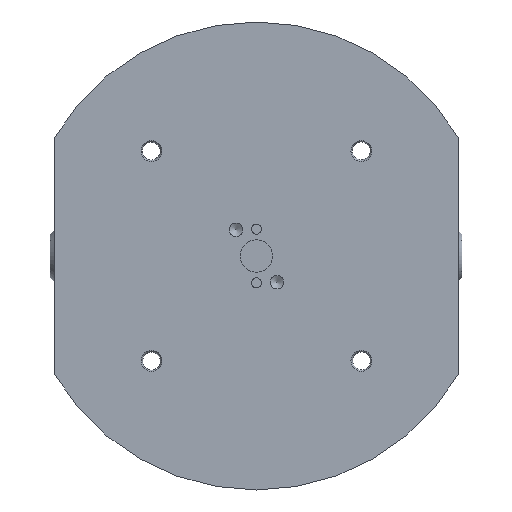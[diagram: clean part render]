
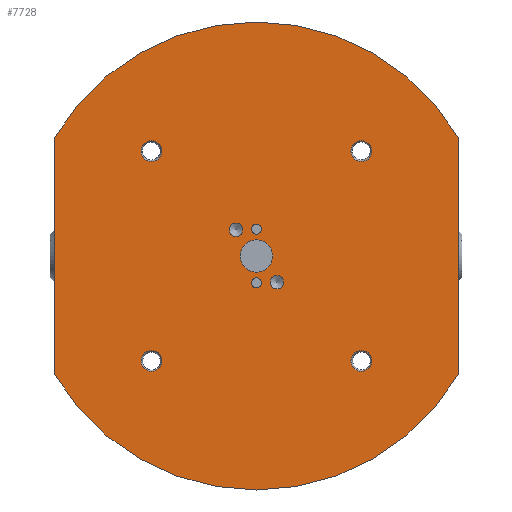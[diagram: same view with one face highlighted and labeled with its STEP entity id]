
A CAD part, front view. The second image highlights one B-rep face of the part: STEP entity #7728.
In plain terms, the highlighted planar face has unit normal (0, -1, 0).
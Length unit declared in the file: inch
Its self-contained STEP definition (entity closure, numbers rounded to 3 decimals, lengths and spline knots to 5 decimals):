
#100 = EDGE_CURVE ( 'NONE', #7305, #7305, #8415, .T. ) ;
#106 = DIRECTION ( 'NONE',  ( 0., 0., 1. ) ) ;
#157 = CIRCLE ( 'NONE', #5117, 0.102 ) ;
#177 = DIRECTION ( 'NONE',  ( 0., 0., 1. ) ) ;
#178 = FACE_BOUND ( 'NONE', #8686, .T. ) ;
#202 = FACE_BOUND ( 'NONE', #2130, .T. ) ;
#216 = EDGE_CURVE ( 'NONE', #4889, #3966, #5233, .T. ) ;
#292 = CIRCLE ( 'NONE', #713, 2.28346 ) ;
#411 = CIRCLE ( 'NONE', #1962, 0.06496 ) ;
#629 = CARTESIAN_POINT ( 'NONE',  ( 1.02362, 0., -1.02362 ) ) ;
#699 = DIRECTION ( 'NONE',  ( 0., 0., 1. ) ) ;
#713 = AXIS2_PLACEMENT_3D ( 'NONE', #4460, #7128, #6301 ) ;
#724 = AXIS2_PLACEMENT_3D ( 'NONE', #629, #2087, #1339 ) ;
#732 = CIRCLE ( 'NONE', #7788, 0.04921 ) ;
#747 = EDGE_LOOP ( 'NONE', ( #6284 ) ) ;
#843 = CARTESIAN_POINT ( 'NONE',  ( -1.02362, 0., 1.02362 ) ) ;
#899 = DIRECTION ( 'NONE',  ( 0., 1., 0. ) ) ;
#913 = ORIENTED_EDGE ( 'NONE', *, *, #7862, .T. ) ;
#933 = DIRECTION ( 'NONE',  ( 0., 0., -1. ) ) ;
#1131 = CARTESIAN_POINT ( 'NONE',  ( 0., 0., 0.31171 ) ) ;
#1205 = CIRCLE ( 'NONE', #3893, 0.102 ) ;
#1302 = ORIENTED_EDGE ( 'NONE', *, *, #100, .F. ) ;
#1339 = DIRECTION ( 'NONE',  ( 0., 0., 1. ) ) ;
#1366 = DIRECTION ( 'NONE',  ( 0., 0., -1. ) ) ;
#1373 = PLANE ( 'NONE',  #3873 ) ;
#1414 = DIRECTION ( 'NONE',  ( 0., -1., 0. ) ) ;
#1421 = CARTESIAN_POINT ( 'NONE',  ( 0., 0., 0. ) ) ;
#1459 = CIRCLE ( 'NONE', #5955, 0.06496 ) ;
#1489 = EDGE_CURVE ( 'NONE', #4819, #4819, #411, .T. ) ;
#1534 = ORIENTED_EDGE ( 'NONE', *, *, #1489, .F. ) ;
#1544 = CARTESIAN_POINT ( 'NONE',  ( 0.2, 0., -0.32113 ) ) ;
#1580 = VECTOR ( 'NONE', #2855, 39.37008 ) ;
#1608 = AXIS2_PLACEMENT_3D ( 'NONE', #3473, #6013, #106 ) ;
#1635 = CARTESIAN_POINT ( 'NONE',  ( -0.2, 0., 0.25617 ) ) ;
#1638 = VERTEX_POINT ( 'NONE', #3620 ) ;
#1962 = AXIS2_PLACEMENT_3D ( 'NONE', #3722, #4353, #933 ) ;
#2063 = DIRECTION ( 'NONE',  ( 0., 0., 1. ) ) ;
#2068 = EDGE_CURVE ( 'NONE', #8293, #8293, #1205, .T. ) ;
#2087 = DIRECTION ( 'NONE',  ( 0., 1., 0. ) ) ;
#2130 = EDGE_LOOP ( 'NONE', ( #8366 ) ) ;
#2179 = ORIENTED_EDGE ( 'NONE', *, *, #6838, .T. ) ;
#2202 = CARTESIAN_POINT ( 'NONE',  ( -1.02362, 0., -0.92162 ) ) ;
#2214 = FACE_OUTER_BOUND ( 'NONE', #2601, .T. ) ;
#2447 = DIRECTION ( 'NONE',  ( 0., 0., 1. ) ) ;
#2556 = EDGE_CURVE ( 'NONE', #4910, #4910, #6069, .T. ) ;
#2595 = CARTESIAN_POINT ( 'NONE',  ( 1.9685, 0., -1.25 ) ) ;
#2601 = EDGE_LOOP ( 'NONE', ( #5451, #8309, #7220, #913 ) ) ;
#2704 = DIRECTION ( 'NONE',  ( 0., 0., 1. ) ) ;
#2809 = DIRECTION ( 'NONE',  ( 0., -1., 0. ) ) ;
#2828 = CARTESIAN_POINT ( 'NONE',  ( 0., 0., 0. ) ) ;
#2855 = DIRECTION ( 'NONE',  ( 0., 0., -1. ) ) ;
#2953 = CARTESIAN_POINT ( 'NONE',  ( 1.02362, 0., -0.92162 ) ) ;
#3008 = EDGE_CURVE ( 'NONE', #6974, #6974, #157, .T. ) ;
#3060 = ORIENTED_EDGE ( 'NONE', *, *, #6282, .T. ) ;
#3092 = VERTEX_POINT ( 'NONE', #8378 ) ;
#3108 = VERTEX_POINT ( 'NONE', #7193 ) ;
#3128 = EDGE_CURVE ( 'NONE', #1638, #1638, #4415, .T. ) ;
#3369 = CARTESIAN_POINT ( 'NONE',  ( -1.9685, 0., 1.15724 ) ) ;
#3473 = CARTESIAN_POINT ( 'NONE',  ( 0., 0., 0.2625 ) ) ;
#3620 = CARTESIAN_POINT ( 'NONE',  ( 1.02362, 0., 1.12562 ) ) ;
#3722 = CARTESIAN_POINT ( 'NONE',  ( 0.2, 0., -0.25617 ) ) ;
#3783 = VERTEX_POINT ( 'NONE', #8592 ) ;
#3873 = AXIS2_PLACEMENT_3D ( 'NONE', #1421, #4879, #699 ) ;
#3893 = AXIS2_PLACEMENT_3D ( 'NONE', #843, #6224, #177 ) ;
#3935 = LINE ( 'NONE', #2595, #4947 ) ;
#3966 = VERTEX_POINT ( 'NONE', #4737 ) ;
#4240 = FACE_BOUND ( 'NONE', #747, .T. ) ;
#4300 = CIRCLE ( 'NONE', #1608, 0.04921 ) ;
#4353 = DIRECTION ( 'NONE',  ( 0., -1., 0. ) ) ;
#4405 = ORIENTED_EDGE ( 'NONE', *, *, #3128, .T. ) ;
#4415 = CIRCLE ( 'NONE', #7464, 0.102 ) ;
#4446 = FACE_BOUND ( 'NONE', #7541, .T. ) ;
#4460 = CARTESIAN_POINT ( 'NONE',  ( 0., 0., 0. ) ) ;
#4537 = AXIS2_PLACEMENT_3D ( 'NONE', #2828, #899, #4967 ) ;
#4595 = VERTEX_POINT ( 'NONE', #8092 ) ;
#4632 = AXIS2_PLACEMENT_3D ( 'NONE', #8113, #1414, #1366 ) ;
#4737 = CARTESIAN_POINT ( 'NONE',  ( 1.9685, 0., 1.15724 ) ) ;
#4815 = DIRECTION ( 'NONE',  ( 0., 0., -1. ) ) ;
#4819 = VERTEX_POINT ( 'NONE', #1544 ) ;
#4869 = EDGE_CURVE ( 'NONE', #3783, #3966, #3935, .T. ) ;
#4879 = DIRECTION ( 'NONE',  ( 0., 1., 0. ) ) ;
#4889 = VERTEX_POINT ( 'NONE', #3369 ) ;
#4910 = VERTEX_POINT ( 'NONE', #2953 ) ;
#4947 = VECTOR ( 'NONE', #2063, 39.37008 ) ;
#4964 = FACE_BOUND ( 'NONE', #6075, .T. ) ;
#4967 = DIRECTION ( 'NONE',  ( 0., 0., 1. ) ) ;
#4983 = EDGE_LOOP ( 'NONE', ( #3060 ) ) ;
#5023 = CARTESIAN_POINT ( 'NONE',  ( -1.02362, 0., -1.02362 ) ) ;
#5117 = AXIS2_PLACEMENT_3D ( 'NONE', #5023, #7693, #8400 ) ;
#5164 = VERTEX_POINT ( 'NONE', #1131 ) ;
#5233 = CIRCLE ( 'NONE', #4537, 2.28346 ) ;
#5278 = EDGE_LOOP ( 'NONE', ( #1534 ) ) ;
#5339 = CARTESIAN_POINT ( 'NONE',  ( 0., 0., -0.158 ) ) ;
#5451 = ORIENTED_EDGE ( 'NONE', *, *, #7993, .F. ) ;
#5529 = FACE_BOUND ( 'NONE', #5278, .T. ) ;
#5534 = ORIENTED_EDGE ( 'NONE', *, *, #2068, .T. ) ;
#5625 = EDGE_CURVE ( 'NONE', #3092, #3092, #1459, .T. ) ;
#5955 = AXIS2_PLACEMENT_3D ( 'NONE', #1635, #2809, #4815 ) ;
#6013 = DIRECTION ( 'NONE',  ( 0., 1., 0. ) ) ;
#6069 = CIRCLE ( 'NONE', #724, 0.102 ) ;
#6075 = EDGE_LOOP ( 'NONE', ( #1302 ) ) ;
#6224 = DIRECTION ( 'NONE',  ( 0., 1., 0. ) ) ;
#6255 = FACE_BOUND ( 'NONE', #6956, .T. ) ;
#6282 = EDGE_CURVE ( 'NONE', #5164, #5164, #4300, .T. ) ;
#6284 = ORIENTED_EDGE ( 'NONE', *, *, #3008, .T. ) ;
#6301 = DIRECTION ( 'NONE',  ( 0., 0., 1. ) ) ;
#6676 = CARTESIAN_POINT ( 'NONE',  ( 0., 0., -0.2625 ) ) ;
#6828 = CARTESIAN_POINT ( 'NONE',  ( -1.02362, 0., 1.12562 ) ) ;
#6838 = EDGE_CURVE ( 'NONE', #4595, #4595, #732, .T. ) ;
#6936 = FACE_BOUND ( 'NONE', #8128, .T. ) ;
#6956 = EDGE_LOOP ( 'NONE', ( #5534 ) ) ;
#6974 = VERTEX_POINT ( 'NONE', #2202 ) ;
#7115 = CARTESIAN_POINT ( 'NONE',  ( 1.02362, 0., 1.02362 ) ) ;
#7128 = DIRECTION ( 'NONE',  ( 0., 1., 0. ) ) ;
#7193 = CARTESIAN_POINT ( 'NONE',  ( -1.9685, 0., -1.15724 ) ) ;
#7220 = ORIENTED_EDGE ( 'NONE', *, *, #216, .F. ) ;
#7279 = DIRECTION ( 'NONE',  ( 0., 1., 0. ) ) ;
#7305 = VERTEX_POINT ( 'NONE', #5339 ) ;
#7311 = ORIENTED_EDGE ( 'NONE', *, *, #5625, .F. ) ;
#7416 = CARTESIAN_POINT ( 'NONE',  ( -1.9685, 0., -1.25 ) ) ;
#7464 = AXIS2_PLACEMENT_3D ( 'NONE', #7115, #7279, #2447 ) ;
#7465 = LINE ( 'NONE', #7416, #1580 ) ;
#7487 = FACE_BOUND ( 'NONE', #4983, .T. ) ;
#7541 = EDGE_LOOP ( 'NONE', ( #4405 ) ) ;
#7693 = DIRECTION ( 'NONE',  ( 0., 1., 0. ) ) ;
#7728 = ADVANCED_FACE ( 'NONE', ( #202, #4446, #6255, #4240, #178, #5529, #4964, #6936, #7487, #2214 ), #1373, .F. ) ;
#7788 = AXIS2_PLACEMENT_3D ( 'NONE', #6676, #8654, #2704 ) ;
#7862 = EDGE_CURVE ( 'NONE', #4889, #3108, #7465, .T. ) ;
#7993 = EDGE_CURVE ( 'NONE', #3783, #3108, #292, .T. ) ;
#8092 = CARTESIAN_POINT ( 'NONE',  ( 0., 0., -0.21329 ) ) ;
#8113 = CARTESIAN_POINT ( 'NONE',  ( 0., 0., 0. ) ) ;
#8128 = EDGE_LOOP ( 'NONE', ( #2179 ) ) ;
#8293 = VERTEX_POINT ( 'NONE', #6828 ) ;
#8309 = ORIENTED_EDGE ( 'NONE', *, *, #4869, .T. ) ;
#8366 = ORIENTED_EDGE ( 'NONE', *, *, #2556, .T. ) ;
#8378 = CARTESIAN_POINT ( 'NONE',  ( -0.2, 0., 0.19121 ) ) ;
#8400 = DIRECTION ( 'NONE',  ( 0., 0., 1. ) ) ;
#8415 = CIRCLE ( 'NONE', #4632, 0.158 ) ;
#8592 = CARTESIAN_POINT ( 'NONE',  ( 1.9685, 0., -1.15724 ) ) ;
#8654 = DIRECTION ( 'NONE',  ( 0., 1., 0. ) ) ;
#8686 = EDGE_LOOP ( 'NONE', ( #7311 ) ) ;
